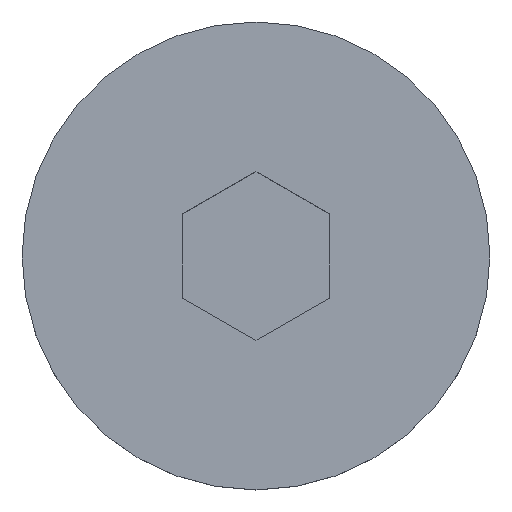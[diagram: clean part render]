
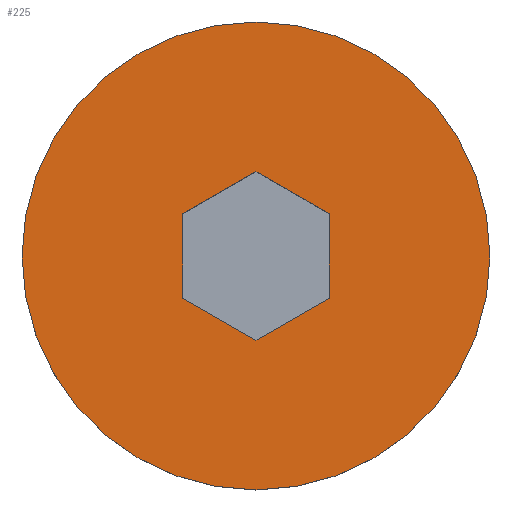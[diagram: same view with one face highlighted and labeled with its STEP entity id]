
A CAD part, top view. The second image highlights one B-rep face of the part: STEP entity #225.
In plain terms, the highlighted planar face has unit normal (0, 0, 1).
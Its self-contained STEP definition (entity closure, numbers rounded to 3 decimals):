
#19=FACE_BOUND('',#53,.T.);
#22=PLANE('',#260);
#38=FACE_OUTER_BOUND('',#52,.T.);
#52=EDGE_LOOP('',(#185));
#53=EDGE_LOOP('',(#186,#187,#188,#189,#190,#191));
#70=LINE('',#376,#92);
#73=LINE('',#383,#95);
#74=LINE('',#385,#96);
#75=LINE('',#387,#97);
#76=LINE('',#389,#98);
#77=LINE('',#390,#99);
#92=VECTOR('',#307,10.);
#95=VECTOR('',#314,10.);
#96=VECTOR('',#315,10.);
#97=VECTOR('',#316,10.);
#98=VECTOR('',#317,10.);
#99=VECTOR('',#318,10.);
#111=CIRCLE('',#261,9.61);
#123=VERTEX_POINT('',#374);
#124=VERTEX_POINT('',#375);
#125=VERTEX_POINT('',#380);
#126=VERTEX_POINT('',#382);
#127=VERTEX_POINT('',#384);
#128=VERTEX_POINT('',#386);
#129=VERTEX_POINT('',#388);
#145=EDGE_CURVE('',#123,#124,#70,.T.);
#148=EDGE_CURVE('',#125,#125,#111,.T.);
#149=EDGE_CURVE('',#124,#126,#73,.T.);
#150=EDGE_CURVE('',#126,#127,#74,.T.);
#151=EDGE_CURVE('',#127,#128,#75,.T.);
#152=EDGE_CURVE('',#128,#129,#76,.T.);
#153=EDGE_CURVE('',#129,#123,#77,.T.);
#185=ORIENTED_EDGE('',*,*,#148,.F.);
#186=ORIENTED_EDGE('',*,*,#145,.T.);
#187=ORIENTED_EDGE('',*,*,#149,.T.);
#188=ORIENTED_EDGE('',*,*,#150,.T.);
#189=ORIENTED_EDGE('',*,*,#151,.T.);
#190=ORIENTED_EDGE('',*,*,#152,.T.);
#191=ORIENTED_EDGE('',*,*,#153,.T.);
#225=ADVANCED_FACE('',(#38,#19),#22,.T.);
#260=AXIS2_PLACEMENT_3D('',#379,#310,#311);
#261=AXIS2_PLACEMENT_3D('',#381,#312,#313);
#307=DIRECTION('',(0.866,0.5,0.));
#310=DIRECTION('center_axis',(0.,0.,1.));
#311=DIRECTION('ref_axis',(1.,0.,0.));
#312=DIRECTION('center_axis',(0.,0.,-1.));
#313=DIRECTION('ref_axis',(1.,0.,0.));
#314=DIRECTION('',(0.866,-0.5,0.));
#315=DIRECTION('',(0.,-1.,0.));
#316=DIRECTION('',(-0.866,-0.5,0.));
#317=DIRECTION('',(-0.866,0.5,0.));
#318=DIRECTION('',(0.,1.,0.));
#374=CARTESIAN_POINT('',(-3.,1.732,11.2));
#375=CARTESIAN_POINT('',(0.,3.464,11.2));
#376=CARTESIAN_POINT('',(-5.854,0.084,11.2));
#379=CARTESIAN_POINT('Origin',(-9.61,0.,11.2));
#380=CARTESIAN_POINT('',(9.61,0.,11.2));
#381=CARTESIAN_POINT('Origin',(0.,0.,11.2));
#382=CARTESIAN_POINT('',(3.,1.732,11.2));
#383=CARTESIAN_POINT('',(-2.854,5.112,11.2));
#384=CARTESIAN_POINT('',(3.,-1.732,11.2));
#385=CARTESIAN_POINT('',(3.,0.866,11.2));
#386=CARTESIAN_POINT('',(0.,-3.464,11.2));
#387=CARTESIAN_POINT('',(-1.354,-4.246,11.2));
#388=CARTESIAN_POINT('',(-3.,-1.732,11.2));
#389=CARTESIAN_POINT('',(-4.354,-0.95,11.2));
#390=CARTESIAN_POINT('',(-3.,-0.866,11.2));
